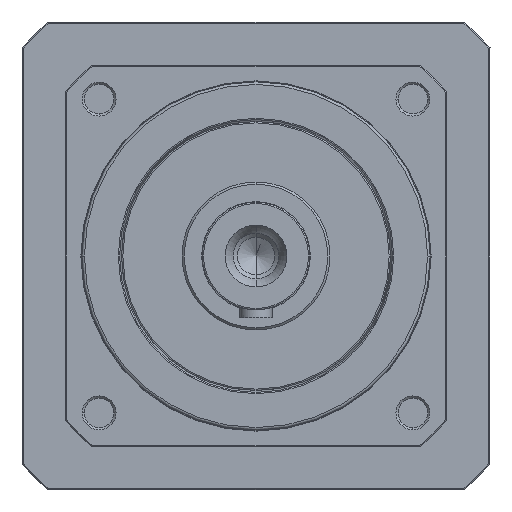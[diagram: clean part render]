
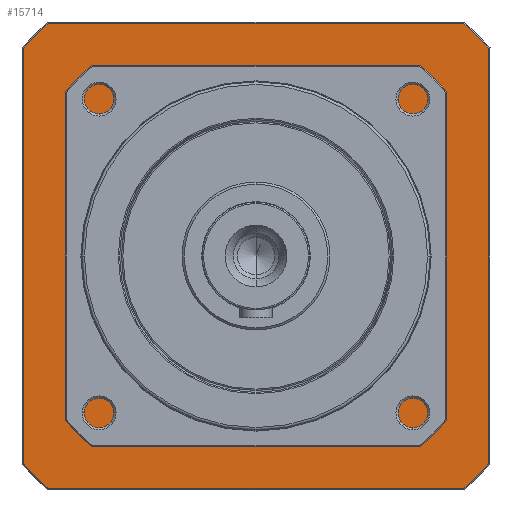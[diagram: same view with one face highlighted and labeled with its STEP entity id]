
A CAD part, left-side view. The second image highlights one B-rep face of the part: STEP entity #15714.
In plain terms, the highlighted planar face has unit normal (-1, 0, 0) as drawn and (0, 0, -1) by its records, which use the part's own axes.
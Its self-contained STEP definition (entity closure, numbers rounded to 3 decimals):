
#14600=CARTESIAN_POINT('',(0.,0.,
2.5));
#14601=DIRECTION('',(0.,0.,-1.));
#14602=DIRECTION('',(0.,-1.,0.));
#14603=AXIS2_PLACEMENT_3D('',#14600,#14601,#14602);
#14605=CARTESIAN_POINT('',(0.,0.,
2.5));
#14606=DIRECTION('',(0.,0.,-1.));
#14607=DIRECTION('',(0.,1.,0.));
#14608=AXIS2_PLACEMENT_3D('',#14605,#14606,#14607);
#14610=CARTESIAN_POINT('',(0.,0.,2.5));
#14611=DIRECTION('',(0.,0.,1.));
#14612=DIRECTION('',(-0.746,-0.666,0.));
#14613=AXIS2_PLACEMENT_3D('',#14610,#14611,#14612);
#14615=DIRECTION('',(1.,0.,0.));
#14616=VECTOR('',#14615,154.58);
#14617=CARTESIAN_POINT('',(-77.29,-86.5,
2.5));
#14618=LINE('',#14617,#14616);
#14619=CARTESIAN_POINT('',(0.,0.,2.5));
#14620=DIRECTION('',(0.,0.,1.));
#14621=DIRECTION('',(0.666,-0.746,0.));
#14622=AXIS2_PLACEMENT_3D('',#14619,#14620,#14621);
#14624=DIRECTION('',(0.,1.,0.));
#14625=VECTOR('',#14624,154.58);
#14626=CARTESIAN_POINT('',(86.5,-77.29,
2.5));
#14627=LINE('',#14626,#14625);
#14628=CARTESIAN_POINT('',(0.,0.,2.5));
#14629=DIRECTION('',(0.,0.,1.));
#14630=DIRECTION('',(0.746,0.666,0.));
#14631=AXIS2_PLACEMENT_3D('',#14628,#14629,#14630);
#14633=DIRECTION('',(-1.,0.,0.));
#14634=VECTOR('',#14633,154.58);
#14635=CARTESIAN_POINT('',(77.29,86.5,2.5));
#14636=LINE('',#14635,#14634);
#14637=CARTESIAN_POINT('',(0.,0.,2.5));
#14638=DIRECTION('',(0.,0.,1.));
#14639=DIRECTION('',(-0.666,0.746,0.));
#14640=AXIS2_PLACEMENT_3D('',#14637,#14638,#14639);
#14642=DIRECTION('',(0.,-1.,0.));
#14643=VECTOR('',#14642,154.58);
#14644=CARTESIAN_POINT('',(-86.5,77.29,
2.5));
#14645=LINE('',#14644,#14643);
#15363=CARTESIAN_POINT('',(0.,-69.5,2.5));
#15364=CARTESIAN_POINT('',(0.,69.5,
2.5));
#15365=VERTEX_POINT('',#15363);
#15366=VERTEX_POINT('',#15364);
#15467=CARTESIAN_POINT('',(-86.5,-77.29,2.5));
#15468=CARTESIAN_POINT('',(-77.29,-86.5,2.5));
#15469=VERTEX_POINT('',#15467);
#15470=VERTEX_POINT('',#15468);
#15475=CARTESIAN_POINT('',(77.29,-86.5,
2.5));
#15476=VERTEX_POINT('',#15475);
#15479=CARTESIAN_POINT('',(86.5,-77.29,2.5));
#15480=VERTEX_POINT('',#15479);
#15483=CARTESIAN_POINT('',(86.5,77.29,2.5));
#15484=VERTEX_POINT('',#15483);
#15487=CARTESIAN_POINT('',(77.29,86.5,2.5));
#15488=VERTEX_POINT('',#15487);
#15491=CARTESIAN_POINT('',(-77.29,86.5,
2.5));
#15492=VERTEX_POINT('',#15491);
#15497=CARTESIAN_POINT('',(-86.5,77.29,2.5));
#15498=VERTEX_POINT('',#15497);
#15686=CARTESIAN_POINT('',(0.,0.,2.5));
#15687=DIRECTION('',(0.,0.,1.));
#15688=DIRECTION('',(0.,1.,0.));
#15689=AXIS2_PLACEMENT_3D('',#15686,#15687,#15688);
#15690=PLANE('',#15689);
#15692=ORIENTED_EDGE('',*,*,#15691,.T.);
#15694=ORIENTED_EDGE('',*,*,#15693,.T.);
#15696=ORIENTED_EDGE('',*,*,#15695,.T.);
#15698=ORIENTED_EDGE('',*,*,#15697,.T.);
#15700=ORIENTED_EDGE('',*,*,#15699,.T.);
#15702=ORIENTED_EDGE('',*,*,#15701,.T.);
#15704=ORIENTED_EDGE('',*,*,#15703,.T.);
#15706=ORIENTED_EDGE('',*,*,#15705,.T.);
#15707=EDGE_LOOP('',(#15692,#15694,#15696,#15698,#15700,#15702,#15704,#15706));
#15708=FACE_OUTER_BOUND('',#15707,.F.);
#15710=ORIENTED_EDGE('',*,*,#15709,.T.);
#15711=ORIENTED_EDGE('',*,*,#15676,.T.);
#15712=EDGE_LOOP('',(#15710,#15711));
#15713=FACE_BOUND('',#15712,.F.);
#15714=ADVANCED_FACE('',(#15708,#15713),#15690,.F.);
#14604=CIRCLE('',#14603,69.5);
#14609=CIRCLE('',#14608,69.5);
#14614=CIRCLE('',#14613,116.);
#14623=CIRCLE('',#14622,116.);
#14632=CIRCLE('',#14631,116.);
#14641=CIRCLE('',#14640,116.);
#15676=EDGE_CURVE('',#15366,#15365,#14609,.T.);
#15691=EDGE_CURVE('',#15469,#15470,#14614,.T.);
#15693=EDGE_CURVE('',#15470,#15476,#14618,.T.);
#15695=EDGE_CURVE('',#15476,#15480,#14623,.T.);
#15697=EDGE_CURVE('',#15480,#15484,#14627,.T.);
#15699=EDGE_CURVE('',#15484,#15488,#14632,.T.);
#15701=EDGE_CURVE('',#15488,#15492,#14636,.T.);
#15703=EDGE_CURVE('',#15492,#15498,#14641,.T.);
#15705=EDGE_CURVE('',#15498,#15469,#14645,.T.);
#15709=EDGE_CURVE('',#15365,#15366,#14604,.T.);
